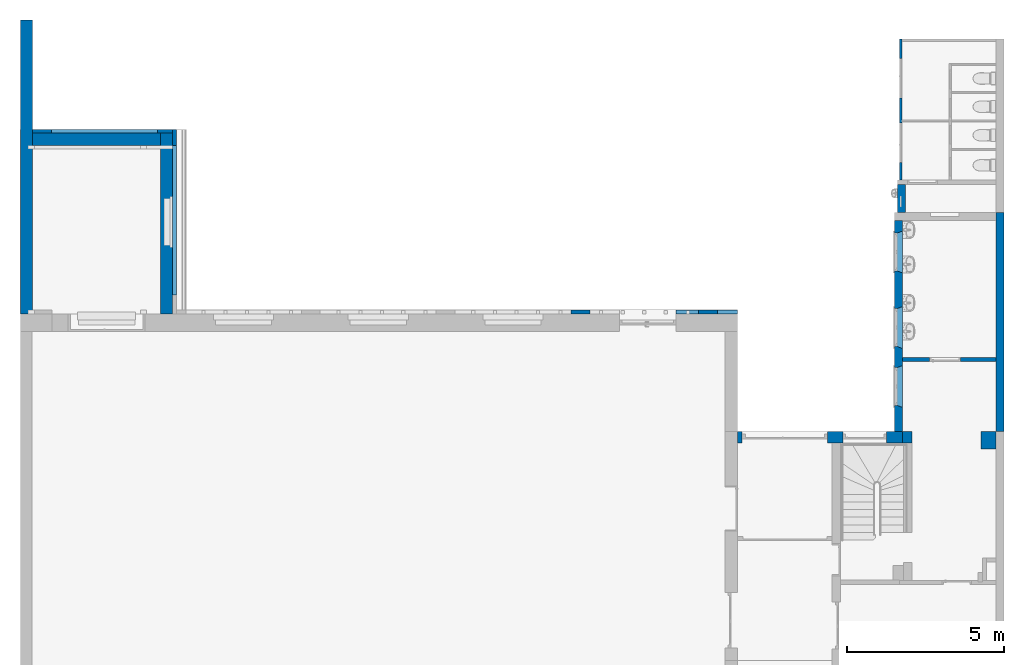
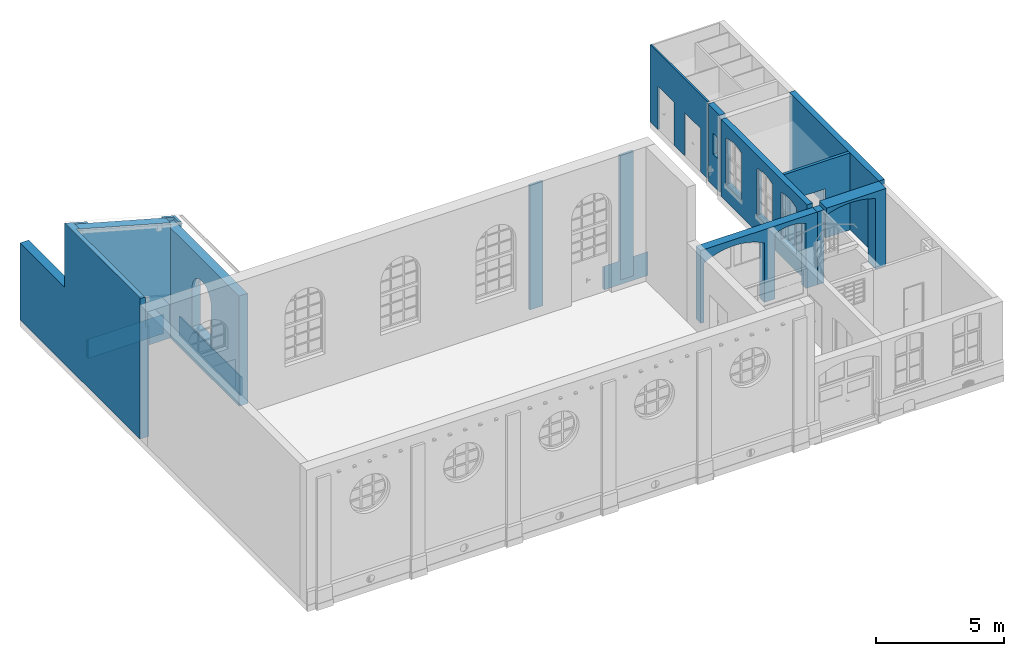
"""IFC4 building model written with IfcOpenShell, lengths in metres."""

from ifc_helpers import new_model, entity, si_unit, converted_unit, derived_unit, frame, frame_2d, origin, origin_with_axes, place, context, subcontext, project, spatial, polyline, rectangle, outline, extrude, clip, halfspace, bounded_halfspace, faceted_brep, material, layer, layer_set, layer_usage, element, save


model = new_model("IFC4")

# Units and contexts
model_context = context("Model", 3, precision=1e-05, world=origin())
body_context = subcontext(model_context, "Body", "Model", "MODEL_VIEW")
ifc_project = project(units=[si_unit("LENGTHUNIT", "METRE"), si_unit("AREAUNIT", "SQUARE_METRE"), si_unit("VOLUMEUNIT", "CUBIC_METRE"), si_unit("MASSUNIT", "GRAM", prefix="KILO"), converted_unit("PLANEANGLEUNIT", "DEGREE", entity("IfcPlaneAngleMeasure", 0.0174532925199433), si_unit("PLANEANGLEUNIT", "RADIAN"), dimensions=[0, 0, 0, 0, 0, 0, 0]), derived_unit("THERMALTRANSMITTANCEUNIT", [(si_unit("POWERUNIT", "WATT"), 1), (si_unit("THERMODYNAMICTEMPERATUREUNIT", "KELVIN"), -1), (si_unit("LENGTHUNIT", "METRE"), -2)]), derived_unit("VOLUMETRICFLOWRATEUNIT", [(si_unit("LENGTHUNIT", "METRE"), 3), (converted_unit("TIMEUNIT", "hour", entity("IfcTimeMeasure", 3600.0), si_unit("TIMEUNIT", "SECOND"), dimensions=[0, 0, 1, 0, 0, 0, 0]), -1), (si_unit("LENGTHUNIT", "METRE"), -1)])], contexts=[model_context])

# Building, storeys
building_placement = place(None, origin())
building = spatial("IfcBuilding", under=ifc_project, at=building_placement, Name="Bestandsgebäude A - Sporthalle / Wohnhaus (TB 100-499)   ANPASSEN !!!", CompositionType="ELEMENT")
storey_1_placement = place(building_placement, origin())
storey_1 = spatial("IfcBuildingStorey", under=building, at=storey_1_placement, Name="Geb. A Erdgeschoss (TB 200-249)", CompositionType="ELEMENT", Elevation=0.0)
storey_2_placement = place(storey_1_placement, origin())
storey_2 = spatial("IfcBuildingStorey", under=storey_1, at=storey_2_placement, Name="Architektur (TB 200-209)", CompositionType="PARTIAL")

# Wall, opening
ifc_material_1 = material(Name="concrete")
ifc_layer_1 = layer(ifc_material_1, 0.25)
ifc_layer_set_1 = layer_set([ifc_layer_1])
ifc_layer_usage_1 = layer_usage(ifc_layer_set_1, "AXIS2", "POSITIVE", 0.0)
wall_1_placement = place(storey_2_placement, frame((-3.39000000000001, 17.13, 0.0), z_axis=(0.0, 0.0, 1.0), x_axis=(0.0, -1.0, 0.0)))
wall_1 = element("IfcWall", 1, at=wall_1_placement, inside=storey_2, material=ifc_layer_usage_1, Name="reinforced - bearing", PredefinedType="USERDEFINED", context=body_context, shape_type="SweptSolid", body=[
    extrude(rectangle(XDim=0.9, YDim=0.25, at=frame_2d((0.45, 0.125), x_axis=(1.0, 0.0))), origin_with_axes(), (0.0, 0.0, 1.0), 3.67),
])
opening_1_placement = place(wall_1_placement, frame((0.369999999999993, 0.0, 1.5), z_axis=(0.0, 1.0, 0.0), x_axis=(0.0, 0.0, 1.0)))
element("IfcOpeningElement", 2, at=opening_1_placement, cuts=wall_1, Name="Window opening", PredefinedType="OPENING", context=body_context, shape_type="SweptSolid", body=[
    extrude(outline(polyline([(1.0, 0.36), (1.0, 0.0), (0.0, 0.0), (0.0, 0.36), (1.0, 0.36)])), origin_with_axes(), (0.0, 0.0, 1.0), 0.25),
])

# Wall, openings
ifc_material_2 = material(Name="concrete")
ifc_layer_2 = layer(ifc_material_2, 0.08)
ifc_layer_set_2 = layer_set([ifc_layer_2])
ifc_layer_usage_2 = layer_usage(ifc_layer_set_2, "AXIS2", "POSITIVE", 0.0)
wall_2_placement = place(storey_2_placement, frame((-3.34, 21.76, 0.0), z_axis=(0.0, 0.0, 1.0), x_axis=(0.0, -1.0, 0.0)))
wall_2 = element("IfcWall", 3, at=wall_2_placement, inside=storey_2, material=ifc_layer_usage_2, Name="reinforced - bearing", PredefinedType="USERDEFINED", context=body_context, shape_type="SweptSolid", body=[
    extrude(rectangle(XDim=4.50000000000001, YDim=0.08, at=frame_2d((2.25, 0.04), x_axis=(1.0, 0.0))), origin_with_axes(), (0.0, 0.0, 1.0), 3.67),
])
opening_2_placement = place(wall_2_placement, frame((3.94, 0.08, 0.0), z_axis=(0.0, -1.0, 0.0), x_axis=(0.0, 0.0, 1.0)))
element("IfcOpeningElement", 4, at=opening_2_placement, cuts=wall_2, Name="Door opening", PredefinedType="OPENING", context=body_context, shape_type="SweptSolid", body=[
    extrude(outline(polyline([(2.06, 1.26), (2.06, 0.0), (0.0, 0.0), (0.0, 1.26), (2.06, 1.26)])), origin_with_axes(), (0.0, 0.0, 1.0), 0.08),
])
opening_3_placement = place(wall_2_placement, frame((1.87999999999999, 0.08, 0.0), z_axis=(0.0, -1.0, 0.0), x_axis=(0.0, 0.0, 1.0)))
element("IfcOpeningElement", 5, at=opening_3_placement, cuts=wall_2, Name="Door opening", PredefinedType="OPENING", context=body_context, shape_type="SweptSolid", body=[
    extrude(outline(polyline([(2.06, 1.26), (2.06, 0.0), (0.0, 0.0), (0.0, 1.26), (2.06, 1.26)])), origin_with_axes(), (0.0, 0.0, 1.0), 0.08),
])

# Wall, opening
ifc_material_3 = material(Name="masonry")
ifc_layer_3 = layer(ifc_material_3, 0.13)
ifc_layer_set_3 = layer_set([ifc_layer_3])
ifc_layer_usage_3 = layer_usage(ifc_layer_set_3, "AXIS2", "POSITIVE", 0.0)
wall_3_placement = place(storey_2_placement, frame((-0.259999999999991, 11.61, 0.0), z_axis=(0.0, 0.0, 1.0), x_axis=(-1.0, 2.44159651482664e-15, 0.0)))
wall_3 = element("IfcWall", 6, at=wall_3_placement, inside=storey_2, material=ifc_layer_usage_3, Name="masonry load-bearing", PredefinedType="USERDEFINED", context=body_context, shape_type="SweptSolid", body=[
    extrude(rectangle(XDim=2.98000000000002, YDim=0.13, at=frame_2d((1.49000000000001, 0.065), x_axis=(1.0, 0.0))), origin_with_axes(), (0.0, 0.0, 1.0), 3.67),
])
opening_4_placement = place(wall_3_placement, frame((1.12000000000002, 0.0, 0.0), z_axis=(-1.74902827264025e-15, 1.0, 0.0), x_axis=(0.0, 0.0, 1.0)))
element("IfcOpeningElement", 7, at=opening_4_placement, cuts=wall_3, Name="Door opening", PredefinedType="OPENING", context=body_context, shape_type="SweptSolid", body=[
    extrude(outline(polyline([(2.35, 0.999999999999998), (2.35, 0.0), (0.0, 0.0), (0.0, 0.999999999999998), (2.35, 0.999999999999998)])), origin_with_axes(), (0.0, 0.0, 1.0), 0.13),
])

# Wall, openings
ifc_material_4 = material(Name="concrete")
ifc_layer_4 = layer(ifc_material_4, 0.25)
ifc_layer_set_4 = layer_set([ifc_layer_4])
ifc_layer_usage_4 = layer_usage(ifc_layer_set_4, "AXIS2", "POSITIVE", 0.0)
wall_4_placement = place(storey_2_placement, frame((-3.49000000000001, 15.97, 0.0), z_axis=(0.0, 0.0, 1.0), x_axis=(-2.70682946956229e-16, -1.0, 0.0)))
wall_4 = element("IfcWall", 8, at=wall_4_placement, inside=storey_2, material=ifc_layer_usage_4, Name="reinforced - bearing", PredefinedType="USERDEFINED", context=body_context, shape_type="SweptSolid", body=[
    extrude(rectangle(XDim=6.72, YDim=0.25, at=frame_2d((3.36, 0.125), x_axis=(1.0, 0.0))), origin_with_axes(), (0.0, 0.0, 1.0), 3.67),
])
opening_5_placement = place(wall_4_placement, frame((5.96, 0.25, 0.79), z_axis=(0.0, 0.0, 1.0), x_axis=(-1.0, 6.36306927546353e-17, 0.0)))
element("IfcOpeningElement", 9, at=opening_5_placement, cuts=wall_4, Name="Wall Niche", ObjectType="Opening", context=body_context, shape_type="SweptSolid", body=[
    extrude(outline(polyline([(0.0, 0.0), (1.34000000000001, 0.0), (1.28000000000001, 0.15), (0.0600000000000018, 0.15), (0.0, 0.0)])), origin_with_axes(), (0.0, 0.0, 1.0), 2.3),
])
opening_6_placement = place(wall_4_placement, frame((4.08, 0.25, 0.79), z_axis=(0.0, 0.0, 1.0), x_axis=(-1.0, 6.36306927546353e-17, 0.0)))
element("IfcOpeningElement", 10, at=opening_6_placement, cuts=wall_4, Name="Wall Niche", ObjectType="Opening", context=body_context, shape_type="SweptSolid", body=[
    extrude(outline(polyline([(0.0, 0.0), (1.34000000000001, 0.0), (1.28000000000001, 0.15), (0.0600000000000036, 0.15), (0.0, 0.0)])), origin_with_axes(), (0.0, 0.0, 1.0), 2.3),
])
opening_7_placement = place(wall_4_placement, frame((1.67, 0.25, 0.79), z_axis=(0.0, 0.0, 1.0), x_axis=(-1.0, -2.75733001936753e-16, 0.0)))
element("IfcOpeningElement", 11, at=opening_7_placement, cuts=wall_4, Name="Wall Niche", ObjectType="Opening", context=body_context, shape_type="SweptSolid", body=[
    extrude(outline(polyline([(0.0, 0.0), (1.34000000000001, 0.0), (1.28000000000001, 0.15), (0.06, 0.15), (0.0, 0.0)])), origin_with_axes(), (0.0, 0.0, 1.0), 2.3),
])
opening_8_placement = place(wall_4_placement, frame((4.68, 0.0, 0.79), z_axis=(0.0, 1.0, 0.0), x_axis=(0.0, 0.0, 1.0)))
element("IfcOpeningElement", 12, at=opening_8_placement, cuts=wall_4, Name="Window opening", PredefinedType="OPENING", context=body_context, shape_type="SweptSolid", body=[
    extrude(outline(polyline([(2.23, 1.22), (2.24529668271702, 1.18119974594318), (2.25958346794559, 1.14201638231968), (2.27285077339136, 1.102476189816), (2.28508970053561, 1.06260568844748), (2.29629204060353, 1.02243161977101), (2.30645028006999, 0.981980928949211), (2.31555760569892, 0.941280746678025), (2.32360790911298, 0.900358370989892), (2.33059579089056, 0.859241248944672), (2.33651656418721, 0.817956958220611), (2.34136625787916, 0.776533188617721), (2.34514161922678, 0.734997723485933), (2.34784011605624, 0.693378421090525), (2.34945993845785, 0.65170319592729), (2.35, 0.610000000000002), (2.34945993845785, 0.568296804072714), (2.34784011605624, 0.52662157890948), (2.34514161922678, 0.485002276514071), (2.34136625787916, 0.443466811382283), (2.33651656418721, 0.40204304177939), (2.33059579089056, 0.360758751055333), (2.32360790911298, 0.31964162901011), (2.31555760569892, 0.278719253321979), (2.30645028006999, 0.23801907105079), (2.29629204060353, 0.197568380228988), (2.2850897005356, 0.15739431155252), (2.27285077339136, 0.117523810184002), (2.25958346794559, 0.0779836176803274), (2.24529668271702, 0.0388002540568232), (2.23, 0.0), (0.0, 0.0), (0.0, 1.22), (2.23, 1.22)])), origin_with_axes(), (0.0, 0.0, 1.0), 0.25),
])
opening_9_placement = place(wall_4_placement, frame((2.79999999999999, 0.0, 0.79), z_axis=(0.0, 1.0, 0.0), x_axis=(0.0, 0.0, 1.0)))
element("IfcOpeningElement", 13, at=opening_9_placement, cuts=wall_4, Name="Window opening", PredefinedType="OPENING", context=body_context, shape_type="SweptSolid", body=[
    extrude(outline(polyline([(2.23, 1.22000000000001), (2.24529668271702, 1.18119974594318), (2.25958346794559, 1.14201638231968), (2.27285077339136, 1.102476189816), (2.2850897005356, 1.06260568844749), (2.29629204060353, 1.02243161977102), (2.30645028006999, 0.981980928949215), (2.31555760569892, 0.941280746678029), (2.32360790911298, 0.900358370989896), (2.33059579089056, 0.859241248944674), (2.33651656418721, 0.817956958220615), (2.34136625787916, 0.776533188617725), (2.34514161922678, 0.734997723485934), (2.34784011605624, 0.693378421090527), (2.34945993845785, 0.651703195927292), (2.35, 0.610000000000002), (2.34945993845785, 0.568296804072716), (2.34784011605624, 0.52662157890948), (2.34514161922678, 0.485002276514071), (2.34136625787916, 0.443466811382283), (2.33651656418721, 0.402043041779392), (2.33059579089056, 0.360758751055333), (2.32360790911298, 0.319641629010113), (2.31555760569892, 0.278719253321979), (2.30645028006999, 0.23801907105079), (2.29629204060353, 0.19756838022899), (2.2850897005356, 0.15739431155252), (2.27285077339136, 0.117523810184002), (2.25958346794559, 0.0779836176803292), (2.24529668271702, 0.0388002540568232), (2.23, 0.0), (0.0, 0.0), (0.0, 1.22000000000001), (2.23, 1.22000000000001)])), origin_with_axes(), (0.0, 0.0, 1.0), 0.25),
])
opening_10_placement = place(wall_4_placement, frame((0.389999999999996, 0.0, 0.79), z_axis=(-2.27373675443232e-16, 1.0, 0.0), x_axis=(0.0, 0.0, 1.0)))
element("IfcOpeningElement", 14, at=opening_10_placement, cuts=wall_4, Name="Window opening", PredefinedType="OPENING", context=body_context, shape_type="SweptSolid", body=[
    extrude(outline(polyline([(2.23, 1.22), (2.24529668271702, 1.18119974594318), (2.25958346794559, 1.14201638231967), (2.27285077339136, 1.102476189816), (2.28508970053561, 1.06260568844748), (2.29629204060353, 1.02243161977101), (2.30645028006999, 0.981980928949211), (2.31555760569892, 0.941280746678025), (2.32360790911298, 0.900358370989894), (2.33059579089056, 0.859241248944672), (2.33651656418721, 0.817956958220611), (2.34136625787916, 0.776533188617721), (2.34514161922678, 0.734997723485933), (2.34784011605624, 0.693378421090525), (2.34945993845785, 0.65170319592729), (2.35, 0.610000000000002), (2.34945993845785, 0.568296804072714), (2.34784011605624, 0.526621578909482), (2.34514161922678, 0.485002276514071), (2.34136625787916, 0.443466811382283), (2.33651656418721, 0.40204304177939), (2.33059579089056, 0.360758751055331), (2.32360790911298, 0.31964162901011), (2.31555760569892, 0.278719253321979), (2.30645028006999, 0.23801907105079), (2.29629204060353, 0.19756838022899), (2.2850897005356, 0.15739431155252), (2.27285077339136, 0.117523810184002), (2.25958346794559, 0.0779836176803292), (2.24529668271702, 0.0388002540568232), (2.23, 0.0), (0.0, 0.0), (0.0, 1.22), (2.23, 1.22)])), origin_with_axes(), (0.0, 0.0, 1.0), 0.25),
])

# Wall
ifc_material_5 = material(Name="concrete")
ifc_layer_5 = layer(ifc_material_5, 0.12)
ifc_layer_set_5 = layer_set([ifc_layer_5])
ifc_layer_usage_5 = layer_usage(ifc_layer_set_5, "AXIS2", "POSITIVE", 0.0)
wall_5_placement = place(storey_2_placement, frame((-10.46, 13.0, -0.21)))
element("IfcWall", 15, at=wall_5_placement, inside=storey_2, material=ifc_layer_usage_5, Name="reinforced - bearing", PredefinedType="USERDEFINED", context=body_context, shape_type="Clipping", body=[
    clip(extrude(rectangle(XDim=1.95999999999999, YDim=0.12, at=frame_2d((0.979999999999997, 0.06), x_axis=(1.0, 0.0))), origin_with_axes(), (0.0, 0.0, 1.0), 1.14), halfspace(frame((0.979999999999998, 0.06, 1.09), z_axis=(0.0, -0.640184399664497, -0.768221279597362), x_axis=(1.0, 0.0, 0.0)), True)),
])

# Wall, opening
ifc_material_6 = material(Name="concrete")
ifc_layer_6 = layer(ifc_material_6, 0.39)
ifc_layer_set_6 = layer_set([ifc_layer_6])
ifc_layer_usage_6 = layer_usage(ifc_layer_set_6, "AXIS2", "POSITIVE", 0.0)
wall_6_placement = place(storey_2_placement, frame((-31.37, 22.37, 0.0), z_axis=(0.0, 0.0, 1.0), x_axis=(0.0, -1.0, 0.0)))
wall_6 = element("IfcWall", 16, at=wall_6_placement, inside=storey_2, material=ifc_layer_usage_6, Name="reinforced - bearing", PredefinedType="USERDEFINED", context=body_context, shape_type="Clipping", body=[
    clip(clip(extrude(rectangle(XDim=9.36999999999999, YDim=0.39, at=frame_2d((4.68499999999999, 0.195), x_axis=(1.0, 0.0))), origin_with_axes(), (0.0, 0.0, 1.0), 6.72822140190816), bounded_halfspace(frame((6.42999999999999, 0.195, 6.67414311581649), z_axis=(7.64361409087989e-19, -0.267238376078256, -0.963630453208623), x_axis=(1.0, 0.0, 0.0)), True, origin_with_axes(), polyline([(3.48999999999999, 0.0), (9.36999999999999, 0.0), (9.36999999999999, 0.39), (3.48999999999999, 0.39), (3.48999999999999, 0.0)]))), bounded_halfspace(frame((1.74499999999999, 0.195, 3.67), z_axis=(0.0, 0.0, -1.0), x_axis=(0.0, 1.0, 0.0)), True, origin_with_axes(), polyline([(3.48999999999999, 0.0), (3.48999999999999, 0.39), (0.0, 0.39), (0.0, 0.0), (3.48999999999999, 0.0)]))),
])
opening_11_placement = place(wall_6_placement, frame((9.36999999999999, 0.24, 5.25)))
element("IfcOpeningElement", 17, at=opening_11_placement, cuts=wall_6, Name="Wall Niche", ObjectType="Opening", context=body_context, shape_type="Brep", body=[
    faceted_brep([(-5.37000000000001, 0.15, 0.0), (-5.37000000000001, 0.0, 0.0), (0.0, 0.0, 0.0), (0.0, 0.15, 0.0), (-5.37000000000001, 0.0, 1.4116635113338), (-5.37000000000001, 0.15, 1.37006482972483), (0.0, 0.15, 1.37006482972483), (0.0, 0.0, 1.4116635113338)], [[[0, 1, 2, 3]], [[4, 5, 6, 7]], [[1, 0, 5, 4]], [[2, 1, 4, 7]], [[3, 2, 7, 6]], [[0, 3, 6, 5]]], orient=[[False], [False], [False], [False], [False], [False]]),
])

ifc_material_7 = material(Name="concrete")
ifc_layer_7 = layer(ifc_material_7, 0.39)
ifc_layer_set_7 = layer_set([ifc_layer_7])
ifc_layer_usage_7 = layer_usage(ifc_layer_set_7, "AXIS2", "POSITIVE", 0.0)
wall_7_placement = place(storey_2_placement, frame((-26.52, 13.0, 0.0), z_axis=(0.0, 0.0, 1.0), x_axis=(0.0, 1.0, 0.0)))
wall_7 = element("IfcWall", 18, at=wall_7_placement, inside=storey_2, material=ifc_layer_usage_7, Name="reinforced - bearing", PredefinedType="USERDEFINED", context=body_context, shape_type="SweptSolid", body=[
    extrude(rectangle(XDim=5.76, YDim=0.39, at=frame_2d((2.88, 0.195), x_axis=(1.0, 0.0))), origin_with_axes(), (0.0, 0.0, 1.0), 5.25),
])
opening_12_placement = place(wall_7_placement, frame((2.17914213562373, 0.0, 1.56), z_axis=(0.0, 1.0, 0.0), x_axis=(0.0, 0.0, 1.0)))
element("IfcOpeningElement", 19, at=opening_12_placement, cuts=wall_7, Name="Window opening", PredefinedType="OPENING", context=body_context, shape_type="SweptSolid", body=[
    extrude(outline(polyline([(1.8, 1.5), (1.88884919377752, 1.4958914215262), (1.97672493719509, 1.48361070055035), (2.0626644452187, 1.46329238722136), (2.14572614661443, 1.43515909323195), (2.225, 1.39951905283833), (2.2996174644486, 1.35676274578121), (2.36876101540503, 1.30735861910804), (2.43167310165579, 1.25184795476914), (2.48766444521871, 1.19083893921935), (2.53612159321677, 1.125), (2.57651363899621, 1.05505248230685), (2.60839803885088, 0.98176274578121), (2.63142546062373, 0.905933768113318), (2.64534361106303, 0.82839634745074), (2.65, 0.75), (2.64534361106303, 0.67160365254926), (2.63142546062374, 0.594066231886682), (2.60839803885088, 0.518237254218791), (2.57651363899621, 0.444947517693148), (2.53612159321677, 0.375), (2.48766444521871, 0.309161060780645), (2.43167310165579, 0.248152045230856), (2.36876101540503, 0.192641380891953), (2.2996174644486, 0.14323725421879), (2.225, 0.100480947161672), (2.14572614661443, 0.0648409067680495), (2.06266444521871, 0.0367076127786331), (1.97672493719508, 0.0163892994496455), (1.88884919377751, 0.00410857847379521), (1.8, 0.0), (0.0, 0.0), (0.0, 1.5), (1.8, 1.5)])), origin_with_axes(), (0.0, 0.0, 1.0), 0.39),
])

# Walls
ifc_material_8 = material(Name="concrete")
ifc_layer_8 = layer(ifc_material_8, 0.39)
ifc_layer_set_8 = layer_set([ifc_layer_8])
ifc_layer_usage_8 = layer_usage(ifc_layer_set_8, "AXIS2", "POSITIVE", 0.0)
wall_8_placement = place(storey_2_placement, frame((-26.91, 18.76, 0.0), z_axis=(0.0, 0.0, 1.0), x_axis=(-1.0, -8.93852286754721e-16, 0.0)))
element("IfcWall", 20, at=wall_8_placement, inside=storey_2, material=ifc_layer_usage_8, Name="reinforced - bearing", PredefinedType="USERDEFINED", context=body_context, shape_type="Clipping", body=[
    clip(extrude(rectangle(XDim=4.07, YDim=0.39, at=frame_2d((2.035, 0.195), x_axis=(1.0, 0.0))), origin_with_axes(), (0.0, 0.0, 1.0), 6.62006482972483), halfspace(frame((2.035, 0.194999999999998, 6.05570938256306), z_axis=(0.267238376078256, -2.38871633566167e-16, -0.963630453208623), x_axis=(0.963630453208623, 0.0, 0.267238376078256)), True)),
])
ifc_material_9 = material(Name="concrete")
ifc_layer_9 = layer(ifc_material_9, 0.12)
ifc_layer_set_9 = layer_set([ifc_layer_9])
ifc_layer_usage_9 = layer_usage(ifc_layer_set_9, "AXIS2", "POSITIVE", 0.0)
wall_9_placement = place(storey_2_placement, frame((-27.0, 18.76, 0.0)))
element("IfcWall", 21, at=wall_9_placement, inside=storey_2, material=ifc_layer_usage_9, Name="reinforced - bearing", PredefinedType="USERDEFINED", context=body_context, shape_type="Clipping", body=[
    clip(extrude(rectangle(XDim=0.48, YDim=0.12, at=frame_2d((0.24, 0.06), x_axis=(1.0, 0.0))), origin_with_axes(), (0.0, 0.0, 1.0), 5.51631314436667), halfspace(frame((0.24, 0.06, 5.44975525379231), z_axis=(-0.267238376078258, 0.0, -0.963630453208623), x_axis=(0.0, 1.0, 0.0)), True)),
])
ifc_material_10 = material(Name="concrete")
ifc_layer_10 = layer(ifc_material_10, 0.12)
ifc_layer_set_10 = layer_set([ifc_layer_10])
ifc_layer_usage_10 = layer_usage(ifc_layer_set_10, "AXIS2", "POSITIVE", 0.0)
wall_10_placement = place(storey_2_placement, frame((-26.52, 18.88, 0.0), z_axis=(0.0, 0.0, 1.0), x_axis=(0.0, -1.0, 0.0)))
element("IfcWall", 22, at=wall_10_placement, inside=storey_2, material=ifc_layer_usage_10, Name="reinforced - bearing", PredefinedType="USERDEFINED", context=body_context, shape_type="Clipping", body=[
    clip(extrude(rectangle(XDim=0.51, YDim=0.12, at=frame_2d((0.255, 0.06), x_axis=(1.0, 0.0))), origin_with_axes(), (0.0, 0.0, 1.0), 5.38319736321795), halfspace(frame((0.255, 0.06, 5.36655789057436), z_axis=(0.0, -0.267238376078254, -0.963630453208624), x_axis=(-1.0, 0.0, 0.0)), True)),
])
ifc_material_11 = material(Name="concrete")
ifc_layer_11 = layer(ifc_material_11, 0.12)
ifc_layer_set_11 = layer_set([ifc_layer_11])
ifc_layer_usage_11 = layer_usage(ifc_layer_set_11, "AXIS2", "POSITIVE", 0.0)
wall_11_placement = place(storey_2_placement, frame((-30.38, 18.88, 0.0), z_axis=(0.0, 0.0, 1.0), x_axis=(-1.0, 0.0, 0.0)))
element("IfcWall", 23, at=wall_11_placement, inside=storey_2, material=ifc_layer_usage_11, Name="reinforced - bearing", PredefinedType="USERDEFINED", context=body_context, shape_type="Clipping", body=[
    clip(extrude(rectangle(XDim=0.6, YDim=0.12, at=frame_2d((0.3, 0.06), x_axis=(1.0, 0.0))), origin_with_axes(), (0.0, 0.0, 1.0), 6.62006482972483), halfspace(frame((0.3, 0.06, 6.53686746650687), z_axis=(0.267238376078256, 4.86898217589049e-17, -0.963630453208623), x_axis=(0.0, -1.0, 0.0)), True)),
])

# Wall, opening
ifc_material_12 = material(Name="masonry")
ifc_layer_12 = layer(ifc_material_12, 0.57)
ifc_layer_set_12 = layer_set([ifc_layer_12])
ifc_layer_usage_12 = layer_usage(ifc_layer_set_12, "AXIS2", "POSITIVE", 0.0)
wall_12_placement = place(storey_2_placement, frame((-2.94, 8.68, 0.0), z_axis=(0.0, 0.0, 1.0), x_axis=(1.0, 6.78727389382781e-16, 0.0)))
wall_12 = element("IfcWall", 24, at=wall_12_placement, inside=storey_2, material=ifc_layer_usage_12, Name="masonry load-bearing", PredefinedType="USERDEFINED", context=body_context, shape_type="SweptSolid", body=[
    extrude(rectangle(XDim=2.68000000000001, YDim=0.57, at=frame_2d((1.34, 0.285), x_axis=(1.0, 0.0))), origin_with_axes(), (0.0, 0.0, 1.0), 3.67),
])
opening_13_placement = place(wall_12_placement, frame((2.2, 0.57, 0.0), z_axis=(-7.97802369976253e-16, -1.0, 0.0), x_axis=(0.0, 0.0, 1.0)))
element("IfcOpeningElement", 25, at=opening_13_placement, cuts=wall_12, Name="Door opening", PredefinedType="OPENING", context=body_context, shape_type="SweptSolid", body=[
    extrude(outline(polyline([(3.35, 2.2), (3.37553499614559, 2.12954758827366), (3.39937333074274, 2.05850315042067), (3.42150129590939, 1.98690753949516), (3.44190616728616, 1.91480192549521), (3.46057621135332, 1.84222777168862), (3.4775006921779, 1.76922681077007), (3.4926698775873, 1.69584102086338), (3.50607504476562, 1.6221126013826), (3.51770848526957, 1.54808394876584), (3.5275635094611, 1.47379763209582), (3.53563445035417, 1.39929636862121), (3.54191666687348, 1.32462299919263), (3.54640654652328, 1.24982046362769), (3.54910150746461, 1.1749317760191), (3.55, 1.1), (3.54910150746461, 1.0250682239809), (3.54640654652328, 0.950179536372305), (3.54191666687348, 0.87537700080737), (3.53563445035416, 0.800703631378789), (3.5275635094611, 0.726202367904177), (3.51770848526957, 0.651916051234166), (3.50607504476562, 0.577887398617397), (3.4926698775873, 0.504158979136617), (3.4775006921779, 0.430773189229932), (3.46057621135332, 0.357772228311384), (3.44190616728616, 0.285198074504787), (3.42150129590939, 0.213092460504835), (3.39937333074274, 0.14149684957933), (3.3755349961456, 0.070452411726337), (3.35, 0.0), (0.0, 0.0), (0.0, 2.2), (3.35, 2.2)])), origin_with_axes(), (0.0, 0.0, 1.0), 0.57),
])

# Walls
ifc_material_13 = material(Name="concrete")
ifc_layer_13 = layer(ifc_material_13, 0.26)
ifc_layer_set_13 = layer_set([ifc_layer_13])
ifc_layer_usage_13 = layer_usage(ifc_layer_set_13, "AXIS2", "POSITIVE", 0.0)
wall_13_placement = place(storey_2_placement, frame((0.0, 9.25, 0.0), z_axis=(0.0, 0.0, 1.0), x_axis=(2.4492935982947e-16, 1.0, 0.0)))
element("IfcWall", 26, at=wall_13_placement, inside=storey_2, material=ifc_layer_usage_13, Name="reinforced - bearing", PredefinedType="USERDEFINED", context=body_context, shape_type="SweptSolid", body=[
    extrude(rectangle(XDim=6.98, YDim=0.26, at=frame_2d((3.49, 0.13), x_axis=(1.0, 0.0))), origin_with_axes(), (0.0, 0.0, 1.0), 3.67),
])
ifc_material_14 = material(Name="concrete")
ifc_layer_14 = layer(ifc_material_14, 0.12)
ifc_layer_set_14 = layer_set([ifc_layer_14])
ifc_layer_usage_14 = layer_usage(ifc_layer_set_14, "AXIS2", "POSITIVE", 0.0)
wall_14_placement = place(storey_2_placement, frame((-9.14, 13.12, 0.0), z_axis=(0.0, 0.0, 1.0), x_axis=(-1.0, 0.0, 0.0)))
element("IfcWall", 27, at=wall_14_placement, inside=storey_2, material=ifc_layer_usage_14, Name="reinforced - bearing", PredefinedType="USERDEFINED", context=body_context, shape_type="SweptSolid", body=[
    extrude(rectangle(XDim=0.600000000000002, YDim=0.12, at=frame_2d((0.300000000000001, 0.06), x_axis=(1.0, 0.0))), origin_with_axes(), (0.0, 0.0, 1.0), 5.92),
])
ifc_material_15 = material(Name="concrete")
ifc_layer_15 = layer(ifc_material_15, 0.12)
ifc_layer_set_15 = layer_set([ifc_layer_15])
ifc_layer_usage_15 = layer_usage(ifc_layer_set_15, "AXIS2", "POSITIVE", 0.0)
wall_15_placement = place(storey_2_placement, frame((-13.21, 13.12, 0.0), z_axis=(0.0, 0.0, 1.0), x_axis=(-1.0, 0.0, 0.0)))
element("IfcWall", 28, at=wall_15_placement, inside=storey_2, material=ifc_layer_usage_15, Name="reinforced - bearing", PredefinedType="USERDEFINED", context=body_context, shape_type="SweptSolid", body=[
    extrude(rectangle(XDim=0.6, YDim=0.12, at=frame_2d((0.3, 0.06), x_axis=(1.0, 0.0))), origin_with_axes(), (0.0, 0.0, 1.0), 5.92),
])

# Wall, openings
ifc_material_16 = material(Name="concrete")
ifc_layer_16 = layer(ifc_material_16, 0.37)
ifc_layer_set_16 = layer_set([ifc_layer_16])
ifc_layer_usage_16 = layer_usage(ifc_layer_set_16, "AXIS2", "POSITIVE", 0.0)
wall_16_placement = place(storey_2_placement, frame((-3.24000000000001, 9.25, 0.0), z_axis=(0.0, 0.0, 1.0), x_axis=(-1.0, 0.0, 0.0)))
wall_16 = element("IfcWall", 29, at=wall_16_placement, inside=storey_2, material=ifc_layer_usage_16, Name="reinforced - bearing", PredefinedType="USERDEFINED", context=body_context, shape_type="SweptSolid", body=[
    extrude(rectangle(XDim=5.25999999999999, YDim=0.37, at=frame_2d((2.62999999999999, 0.185), x_axis=(1.0, 0.0))), origin_with_axes(), (0.0, 0.0, 1.0), 3.47),
])
opening_14_placement = place(wall_16_placement, frame((0.509999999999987, 0.0, 0.0), z_axis=(0.0, 1.0, 0.0), x_axis=(0.0, 0.0, 1.0)))
element("IfcOpeningElement", 30, at=opening_14_placement, cuts=wall_16, Name="Door opening", PredefinedType="OPENING", context=body_context, shape_type="SweptSolid", body=[
    extrude(outline(polyline([(3.1, 1.39), (3.11907870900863, 1.34621900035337), (3.13690907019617, 1.30191492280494), (3.15347676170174, 1.25712335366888), (3.16876847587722, 1.21188027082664), (3.18277192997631, 1.16622201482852), (3.19547587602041, 1.12018525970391), (3.20687010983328, 1.0738069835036), (3.21694547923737, 1.02712443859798), (3.2256938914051, 0.98017512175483), (3.23310831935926, 0.932996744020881), (3.23918280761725, 0.885627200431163), (3.24391247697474, 0.838104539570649), (3.24729352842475, 0.79046693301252), (3.24932324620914, 0.742752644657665), (3.25, 0.695), (3.24932324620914, 0.647247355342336), (3.24729352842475, 0.59953306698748), (3.24391247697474, 0.551895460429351), (3.23918280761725, 0.504372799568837), (3.23310831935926, 0.45700325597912), (3.2256938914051, 0.40982487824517), (3.21694547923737, 0.362875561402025), (3.20687010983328, 0.316193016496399), (3.19547587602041, 0.269814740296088), (3.18277192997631, 0.223777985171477), (3.16876847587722, 0.178119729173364), (3.15347676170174, 0.132876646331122), (3.13690907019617, 0.0880850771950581), (3.11907870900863, 0.0437809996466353), (3.1, 0.0), (0.0, 0.0), (0.0, 1.39), (3.1, 1.39)])), origin_with_axes(), (0.0, 0.0, 1.0), 0.37),
])
opening_15_placement = place(wall_16_placement, frame((2.38999999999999, 0.0, 0.0), z_axis=(0.0, 1.0, 0.0), x_axis=(0.0, 0.0, 1.0)))
element("IfcOpeningElement", 31, at=opening_15_placement, cuts=wall_16, Name="Door opening", PredefinedType="OPENING", context=body_context, shape_type="SweptSolid", body=[
    extrude(outline(polyline([(2.83, 2.72), (2.87427557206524, 2.63638501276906), (2.9157185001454, 2.55133046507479), (2.95428204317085, 2.46493228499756), (2.989922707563, 2.37728791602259), (3.02260029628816, 2.28849620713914), (3.05227795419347, 2.19865730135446), (3.07892220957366, 2.1078725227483), (3.10250301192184, 2.0162442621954), (3.12299376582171, 1.92387586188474), (3.14037136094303, 1.83087149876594), (3.15461619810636, 1.73733606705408), (3.16571221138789, 1.64337505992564), (3.1736468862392, 1.54909445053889), (3.17841127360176, 1.45460057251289), (3.18, 1.36), (3.17841127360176, 1.26539942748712), (3.1736468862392, 1.17090554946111), (3.16571221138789, 1.07662494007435), (3.15461619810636, 0.982663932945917), (3.14037136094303, 0.889128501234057), (3.12299376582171, 0.796124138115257), (3.10250301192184, 0.703755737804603), (3.07892220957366, 0.612127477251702), (3.05227795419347, 0.521342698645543), (3.02260029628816, 0.431503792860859), (2.989922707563, 0.342712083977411), (2.95428204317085, 0.255067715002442), (2.9157185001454, 0.168669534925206), (2.87427557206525, 0.0836149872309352), (2.83, 0.0), (0.0, 0.0), (0.0, 2.72), (2.83, 2.72)])), origin_with_axes(), (0.0, 0.0, 1.0), 0.37),
])

# Walls
ifc_material_17 = material(Name="concrete")
ifc_layer_17 = layer(ifc_material_17, 0.37)
ifc_layer_set_17 = layer_set([ifc_layer_17])
ifc_layer_usage_17 = layer_usage(ifc_layer_set_17, "AXIS2", "POSITIVE", 0.0)
wall_17_placement = place(storey_2_placement, frame((-2.94000000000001, 9.25, 0.0), z_axis=(0.0, 0.0, 1.0), x_axis=(-1.0, 0.0, 0.0)))
element("IfcWall", 32, at=wall_17_placement, inside=storey_2, material=ifc_layer_usage_17, Name="reinforced - bearing", PredefinedType="USERDEFINED", context=body_context, shape_type="SweptSolid", body=[
    extrude(rectangle(XDim=0.300000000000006, YDim=0.37, at=frame_2d((0.150000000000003, 0.185), x_axis=(1.0, 0.0))), origin_with_axes(), (0.0, 0.0, 1.0), 3.47),
])
ifc_material_18 = material(Name="concrete")
ifc_layer_18 = layer(ifc_material_18, 0.12)
ifc_layer_set_18 = layer_set([ifc_layer_18])
ifc_layer_usage_18 = layer_usage(ifc_layer_set_18, "AXIS2", "POSITIVE", 0.0)
wall_18_placement = place(storey_2_placement, frame((-30.38, 18.76, 0.0), z_axis=(0.0, 0.0, 1.0), x_axis=(1.0, -1.07632509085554e-15, 0.0)))
element("IfcWall", 33, at=wall_18_placement, inside=storey_2, material=ifc_layer_usage_18, Name="reinforced - bearing", PredefinedType="USERDEFINED", context=body_context, shape_type="Clipping", body=[
    clip(extrude(rectangle(XDim=3.38, YDim=0.12, at=frame_2d((1.69, 0.06), x_axis=(1.0, 0.0))), origin_with_axes(), (0.0, 0.0, 1.0), 0.93000000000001), halfspace(frame((1.69, 0.0599999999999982, 0.880000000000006), z_axis=(6.71820368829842e-16, -0.640184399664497, -0.768221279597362), x_axis=(1.0, 0.0, 8.74514136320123e-16)), True)),
])
ifc_material_19 = material(Name="concrete")
ifc_layer_19 = layer(ifc_material_19, 0.12)
ifc_layer_set_19 = layer_set([ifc_layer_19])
ifc_layer_usage_19 = layer_usage(ifc_layer_set_19, "AXIS2", "POSITIVE", 0.0)
wall_19_placement = place(storey_2_placement, frame((-26.52, 18.37, 0.0), z_axis=(0.0, 0.0, 1.0), x_axis=(0.0, -1.0, 0.0)))
element("IfcWall", 34, at=wall_19_placement, inside=storey_2, material=ifc_layer_usage_19, Name="reinforced - bearing", PredefinedType="USERDEFINED", context=body_context, shape_type="Clipping", body=[
    clip(extrude(rectangle(XDim=4.77, YDim=0.12, at=frame_2d((2.385, 0.06), x_axis=(1.0, 0.0))), origin_with_axes(), (0.0, 0.0, 1.0), 0.929999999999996), halfspace(frame((2.385, 0.06, 0.879999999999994), z_axis=(0.0, -0.640184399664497, -0.768221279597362), x_axis=(1.0, 0.0, 0.0)), True)),
])

save(model, "model.ifc")
